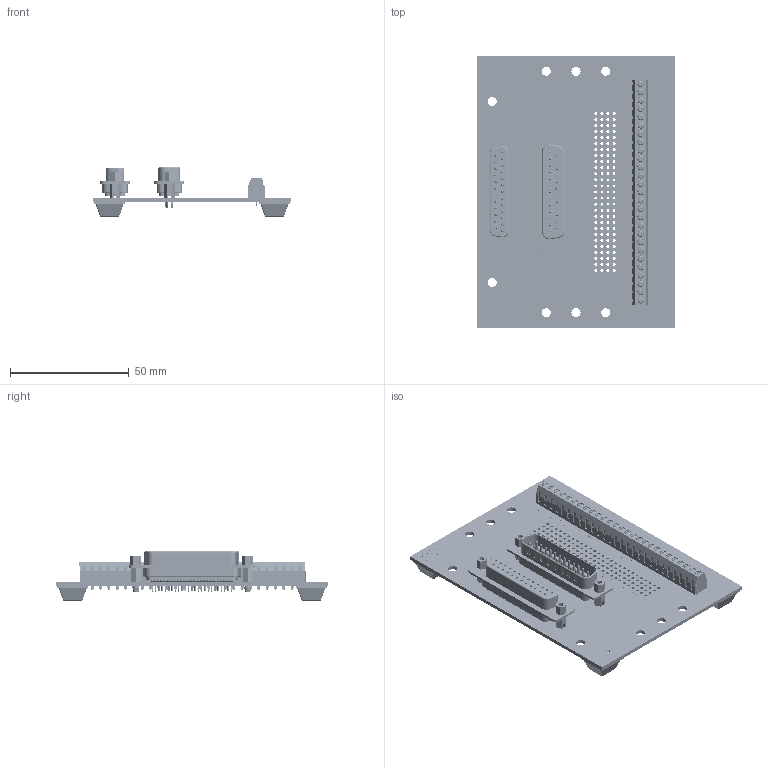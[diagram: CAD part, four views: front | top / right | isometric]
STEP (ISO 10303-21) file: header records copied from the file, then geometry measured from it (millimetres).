
FILE_DESCRIPTION (( 'STEP AP214' ), '1' );
FILE_NAME ('brk25mf-s-ft_rev_b.step', '2017-10-10T01:53:04', ( '' ), ( '' ), 'SwSTEP 2.0', 'SolidWorks 2017', '' );
FILE_SCHEMA (( 'AUTOMOTIVE_DESIGN' ));
Length unit declared in the file: inch
Products named in the file (6): brk25mf-s-ft_rev_b; Square Rubber Feet; Screw Terminal 3; Female Straight 25 Pin; BRK25MF Board; Male Straight 25 Pin
Assembly tree (16 placements, depth 2):
  brk25mf-s-ft_rev_b
    BRK25MF Board
    Female Straight 25 Pin
    Male Straight 25 Pin
    Screw Terminal 3  x9
    Square Rubber Feet  x4
Bounding box: 83.31 x 114.3 x 20.94 mm (x, y, z)
Volume: 25431.9 mm3; surface area: 36749.3 mm2
Topology: 111 solids, 147 shells, 5673 faces, 14466 edges, 9549 vertices
Faces by surface type: plane 3525, bspline 1092, cylinder 928, torus 77, cone 35, sphere 16
Full cylindrical faces by diameter (mm): 0.6 x50, 0.9 x100, 1 x100, 1.016 x50, 1.092 x27, 1.27 x108, 1.5 x50, 2 x54, 2.159 x4, 2.68 x27, 2.75 x27, 3 x4, 3.05 x4, 3.302 x4, 3.81 x8
Entity records: 200366 total; most frequent: CARTESIAN_POINT 73544, ORIENTED_EDGE 16895, DIRECTION 13614, EDGE_CURVE 8452, VERTEX_POINT 5942, LINE 5156, VECTOR 5156, EDGE_LOOP 5154
